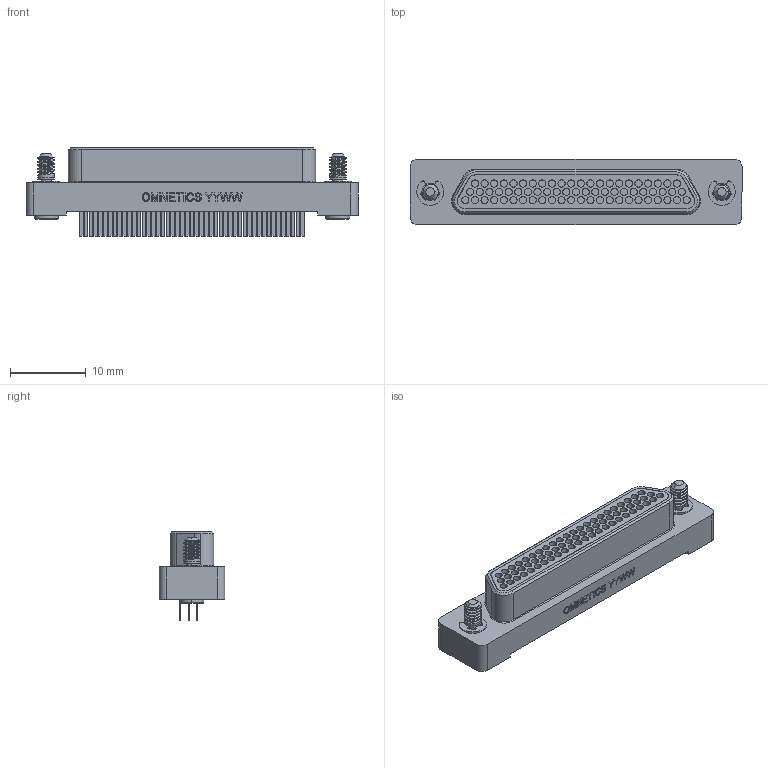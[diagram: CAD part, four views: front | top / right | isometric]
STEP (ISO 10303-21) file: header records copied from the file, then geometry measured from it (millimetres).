
FILE_DESCRIPTION (( 'STEP AP214' ), '1' );
FILE_NAME ('A98061-069 REV A.STEP', '2018-05-31T18:51:21', ( '' ), ( '' ), 'SwSTEP 2.0', 'SolidWorks 2018', '' );
FILE_SCHEMA (( 'AUTOMOTIVE_DESIGN' ));
Length unit declared in the file: inch
Products named in the file (1): A98061-069 REV 1
Bounding box: 43.81 x 8.67 x 11.68 mm (x, y, z)
Volume: 1903.6 mm3; surface area: 4626 mm2
Topology: 1 solids, 5 shells, 1446 faces, 3314 edges, 2100 vertices
Faces by surface type: plane 701, cylinder 525, cone 155, bspline 60, torus 5
Entity records: 44737 total; most frequent: CARTESIAN_POINT 11624, DIRECTION 6989, ORIENTED_EDGE 6616, EDGE_CURVE 3308, AXIS2_PLACEMENT_3D 2459, VERTEX_POINT 2100, LINE 2071, VECTOR 2071
